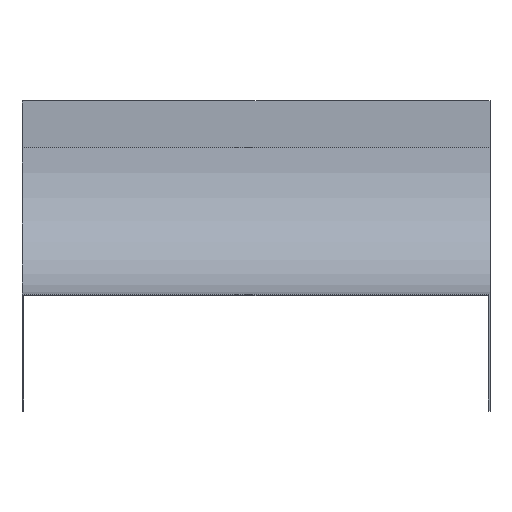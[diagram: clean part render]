
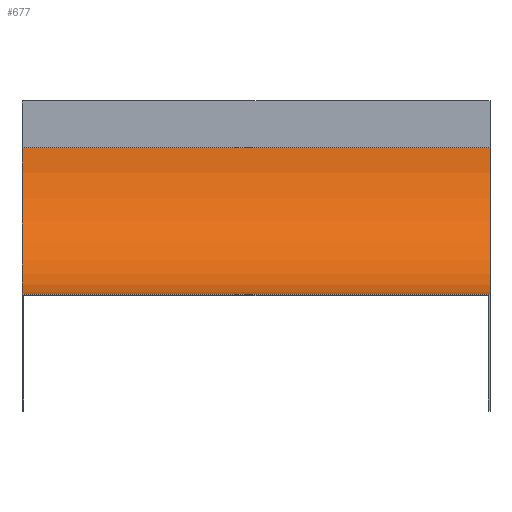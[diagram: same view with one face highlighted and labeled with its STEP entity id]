
A CAD part, front view. The second image highlights one B-rep face of the part: STEP entity #677.
In plain terms, the highlighted cylindrical face has radius 125 mm (diameter 250 mm), a partial arc.
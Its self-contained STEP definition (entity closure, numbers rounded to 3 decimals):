
#58 = LINE ( 'NONE', #567, #95 ) ;
#69 = DIRECTION ( 'NONE',  ( -1., 0., 0. ) ) ;
#95 = VECTOR ( 'NONE', #575, 1000. ) ;
#102 = DIRECTION ( 'NONE',  ( 0., 0., 1. ) ) ;
#121 = ORIENTED_EDGE ( 'NONE', *, *, #1508, .T. ) ;
#143 = CARTESIAN_POINT ( 'NONE',  ( -200., 0., -40. ) ) ;
#182 = VERTEX_POINT ( 'NONE', #1343 ) ;
#216 = DIRECTION ( 'NONE',  ( 0., 0., 1. ) ) ;
#241 = DIRECTION ( 'NONE',  ( -1., 0., 0. ) ) ;
#274 = VERTEX_POINT ( 'NONE', #1072 ) ;
#281 = CARTESIAN_POINT ( 'NONE',  ( -200., -125., -165. ) ) ;
#351 = CARTESIAN_POINT ( 'NONE',  ( 200., -125., -40. ) ) ;
#361 = VERTEX_POINT ( 'NONE', #143 ) ;
#520 = EDGE_LOOP ( 'NONE', ( #121, #1262, #947, #573 ) ) ;
#538 = DIRECTION ( 'NONE',  ( -1., 0., 0. ) ) ;
#567 = CARTESIAN_POINT ( 'NONE',  ( 200., -125., -165. ) ) ;
#573 = ORIENTED_EDGE ( 'NONE', *, *, #733, .T. ) ;
#575 = DIRECTION ( 'NONE',  ( -1., 0., 0. ) ) ;
#603 = CIRCLE ( 'NONE', #1009, 125. ) ;
#632 = CYLINDRICAL_SURFACE ( 'NONE', #1365, 125. ) ;
#677 = ADVANCED_FACE ( 'NONE', ( #745 ), #632, .F. ) ;
#692 = EDGE_CURVE ( 'NONE', #182, #274, #1195, .T. ) ;
#733 = EDGE_CURVE ( 'NONE', #182, #361, #1037, .T. ) ;
#745 = FACE_OUTER_BOUND ( 'NONE', #520, .T. ) ;
#747 = VERTEX_POINT ( 'NONE', #281 ) ;
#827 = VECTOR ( 'NONE', #538, 1000. ) ;
#864 = DIRECTION ( 'NONE',  ( -1., 0., 0. ) ) ;
#947 = ORIENTED_EDGE ( 'NONE', *, *, #692, .F. ) ;
#1009 = AXIS2_PLACEMENT_3D ( 'NONE', #1480, #69, #216 ) ;
#1037 = LINE ( 'NONE', #1158, #827 ) ;
#1072 = CARTESIAN_POINT ( 'NONE',  ( 200., -125., -165. ) ) ;
#1158 = CARTESIAN_POINT ( 'NONE',  ( 200., 0., -40. ) ) ;
#1195 = CIRCLE ( 'NONE', #1582, 125. ) ;
#1262 = ORIENTED_EDGE ( 'NONE', *, *, #1454, .F. ) ;
#1343 = CARTESIAN_POINT ( 'NONE',  ( 200., 0., -40. ) ) ;
#1365 = AXIS2_PLACEMENT_3D ( 'NONE', #1520, #241, #102 ) ;
#1375 = DIRECTION ( 'NONE',  ( 0., 0., 1. ) ) ;
#1454 = EDGE_CURVE ( 'NONE', #274, #747, #58, .T. ) ;
#1480 = CARTESIAN_POINT ( 'NONE',  ( -200., -125., -40. ) ) ;
#1508 = EDGE_CURVE ( 'NONE', #361, #747, #603, .T. ) ;
#1520 = CARTESIAN_POINT ( 'NONE',  ( 200., -125., -40. ) ) ;
#1582 = AXIS2_PLACEMENT_3D ( 'NONE', #351, #864, #1375 ) ;
